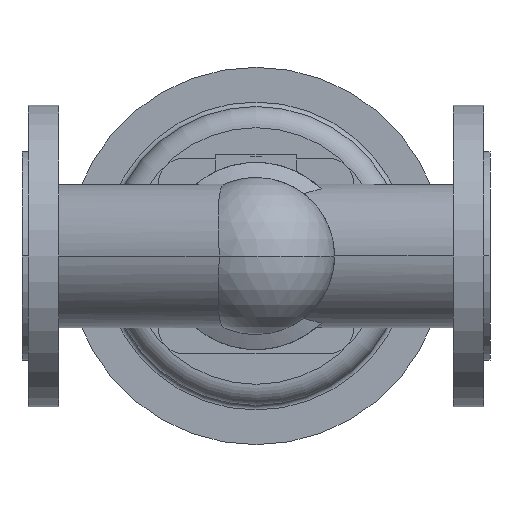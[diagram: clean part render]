
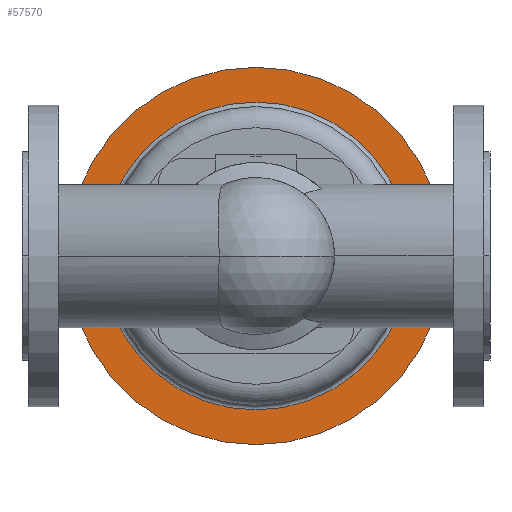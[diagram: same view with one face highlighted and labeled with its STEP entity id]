
A CAD part, front view. The second image highlights one B-rep face of the part: STEP entity #57570.
In plain terms, the highlighted planar face has unit normal (0, -1, 0).
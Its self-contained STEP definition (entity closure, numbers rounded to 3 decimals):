
#57040=CARTESIAN_POINT('',(53.,656.7,0.));
#57050=VERTEX_POINT('',#57040);
#57080=CARTESIAN_POINT('',(155.,656.7,0.));
#57090=DIRECTION('',(0.,1.,0.));
#57100=DIRECTION('',(1.,0.,0.));
#57110=AXIS2_PLACEMENT_3D('',#57080,#57090,#57100);
#57120=CIRCLE('',#57110,102.);
#57130=CARTESIAN_POINT('',(257.,656.7,0.));
#57140=VERTEX_POINT('',#57130);
#57150=EDGE_CURVE('',#57050,#57140,#57120,.T.);
#57280=CARTESIAN_POINT('',(268.5,656.7,0.));
#57290=DIRECTION('',(0.,-1.,0.));
#57300=DIRECTION('',(-1.,0.,0.));
#57310=AXIS2_PLACEMENT_3D('',#57280,#57290,#57300);
#57320=PLANE('',#57310);
#57330=CARTESIAN_POINT('',(155.,656.7,0.));
#57340=DIRECTION('',(0.,1.,0.));
#57350=DIRECTION('',(1.,0.,0.));
#57360=AXIS2_PLACEMENT_3D('',#57330,#57340,#57350);
#57370=CIRCLE('',#57360,125.);
#57380=CARTESIAN_POINT('',(280.,656.7,0.));
#57390=VERTEX_POINT('',#57380);
#57400=CARTESIAN_POINT('',(30.,656.7,0.));
#57410=VERTEX_POINT('',#57400);
#57420=EDGE_CURVE('',#57390,#57410,#57370,.T.);
#57430=ORIENTED_EDGE('',*,*,#57420,.F.);
#57440=EDGE_CURVE('',#57410,#57390,#57370,.T.);
#57450=ORIENTED_EDGE('',*,*,#57440,.F.);
#57460=EDGE_LOOP('',(#57450,#57430));
#57470=FACE_OUTER_BOUND('',#57460,.T.);
#57480=ORIENTED_EDGE('',*,*,#57150,.T.);
#57490=CARTESIAN_POINT('',(155.,656.7,-102.));
#57500=VERTEX_POINT('',#57490);
#57510=EDGE_CURVE('',#57500,#57050,#57120,.T.);
#57520=ORIENTED_EDGE('',*,*,#57510,.T.);
#57530=EDGE_CURVE('',#57140,#57500,#57120,.T.);
#57540=ORIENTED_EDGE('',*,*,#57530,.T.);
#57550=EDGE_LOOP('',(#57540,#57520,#57480));
#57560=FACE_BOUND('',#57550,.T.);
#57570=ADVANCED_FACE('',(#57470,#57560),#57320,.T.);
